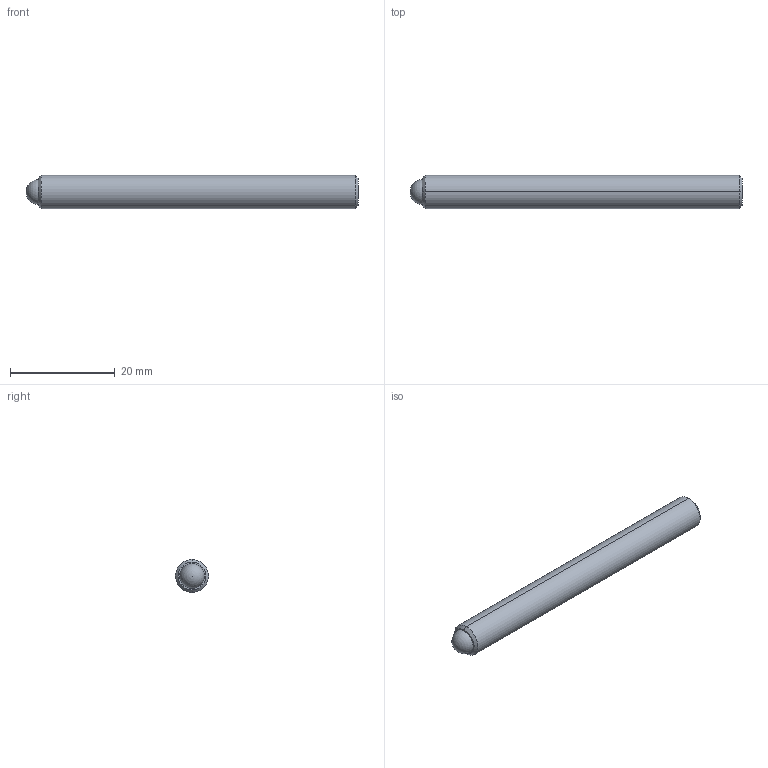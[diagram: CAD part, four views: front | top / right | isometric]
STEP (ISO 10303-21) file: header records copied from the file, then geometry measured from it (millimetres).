
FILE_DESCRIPTION (( 'STEP AP214' ), '1' );
FILE_NAME ('TS250-80-2500-AA.STEP', '2013-02-11T22:13:55', ( 'workpc' ), ( 'Microsoft' ), 'SwSTEP 2.0', 'SolidWorks 2013', '' );
FILE_SCHEMA (( 'AUTOMOTIVE_DESIGN' ));
Length unit declared in the file: inch
Products named in the file (1): TS250-80-2500-AA
Bounding box: 63.5 x 6.35 x 6.35 mm (x, y, z)
Volume: 1944.1 mm3; surface area: 1386.7 mm2
Topology: 2 solids, 2 shells, 20 faces, 45 edges, 29 vertices
Faces by surface type: plane 10, cylinder 4, cone 4, sphere 2
Entity records: 599 total; most frequent: DIRECTION 96, CARTESIAN_POINT 87, ORIENTED_EDGE 80, EDGE_CURVE 40, AXIS2_PLACEMENT_3D 35, VERTEX_POINT 26, LINE 26, VECTOR 26
